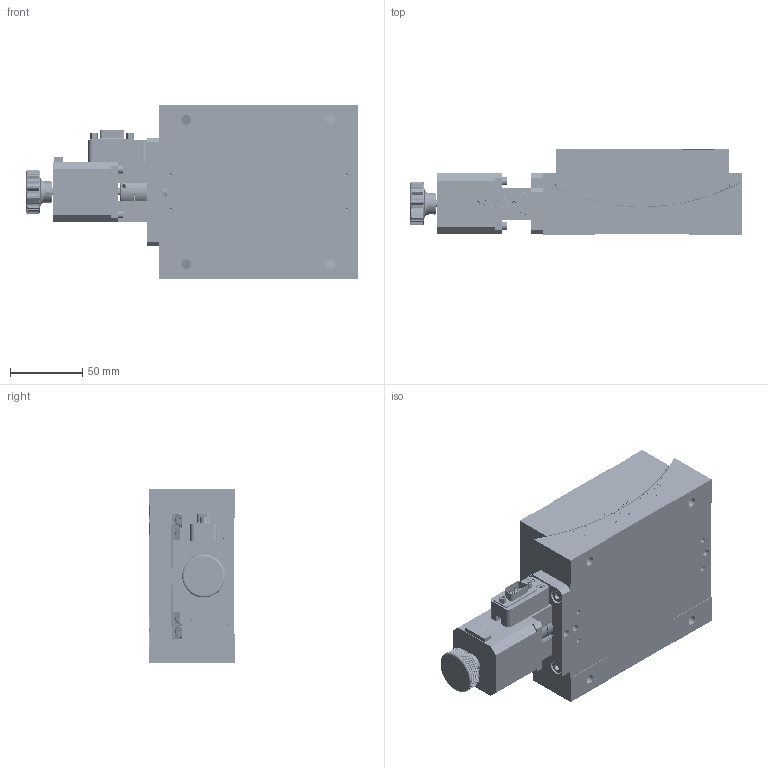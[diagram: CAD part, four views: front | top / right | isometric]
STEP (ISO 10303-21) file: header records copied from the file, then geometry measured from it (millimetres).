
FILE_DESCRIPTION (( 'STEP AP203' ), '1' );
FILE_NAME ('PT-GD124×°Åä.STEP', '2025-08-05T03:09:00', ( '' ), ( '' ), 'SwSTEP 2.0', 'SolidWorks 2023', '' );
FILE_SCHEMA (( 'CONFIG_CONTROL_DESIGN' ));
Length unit declared in the file: millimetre
Products named in the file (29): GB／T 70．1-2000[内六角圆柱头螺钉M3×16]; PT-GD124-01底座; PT-GD124-10背母; D3钢球; 9针座; PT-GD124-03电机座连接板X; PT-GD124-06涡轮; 联轴器26-20-5-5; GB／T 70．1-2000[内六角圆柱头螺钉M4×16]; PT-GD124-02台面; 电机9针座标准件; PT-GD124装配; PT-GD124-05涡杆; GB／T 70．1-2000[内六角圆柱头螺钉M4×12]; MVR3螺钉; 9针座螺钉; PT-GD124-08导轨右; GB／T 896-86[开口挡圈6]; SST43D2046; GB／T 276-94[深沟球轴承607-2Z]; GB／T 70．1-2000[内六角圆柱头螺钉M3×10]; PT-GD124-13轴承座; PDV-42电机手轮; PT-GD124-12轴承锁母; PT-GD124-09钢球固定架; PT-GD124-07导轨左; GB／T 70．1-2000[内六角圆柱头螺钉M5×10]; PT-GD124-11背母2; GB／T 77-2000[内六角平端紧定螺钉M4×5]
Assembly tree (116 placements, depth 2):
  PT-GD124装配
    PT-GD124-01底座
    PT-GD124-02台面
    PT-GD124-06涡轮
    PT-GD124-05涡杆
    PT-GD124-08导轨右  x2
    PT-GD124-07导轨左  x2
    PT-GD124-13轴承座  x2
    GB／T 276-94[深沟球轴承607-2Z]  x2
    PT-GD124-10背母
    PT-GD124-12轴承锁母
    PT-GD124-11背母2
    联轴器26-20-5-5
    SST43D2046
    PDV-42电机手轮
    9针座
    MVR3螺钉  x8
    GB／T 70．1-2000[内六角圆柱头螺钉M4×12]  x18
    GB／T 70．1-2000[内六角圆柱头螺钉M3×10]  x14
    GB／T 70．1-2000[内六角圆柱头螺钉M5×10]  x4
    9针座螺钉  x2
    GB／T 70．1-2000[内六角圆柱头螺钉M4×16]  x10
    GB／T 77-2000[内六角平端紧定螺钉M4×5]  x12
    GB／T 896-86[开口挡圈6]
    PT-GD124-09钢球固定架  x2
    D3钢球  x22
    PT-GD124-03电机座连接板X
    电机9针座标准件
    GB／T 70．1-2000[内六角圆柱头螺钉M3×16]  x2
Bounding box: 230 x 59 x 120 mm (x, y, z)
Volume: 899386.8 mm3; surface area: 242566.5 mm2
Topology: 116 solids, 116 shells, 4673 faces, 12371 edges, 7988 vertices
Faces by surface type: plane 1893, cylinder 1489, bspline 450, cone 325, torus 310, sphere 206
Entity records: 144291 total; most frequent: CARTESIAN_POINT 65274, ORIENTED_EDGE 16922, DIRECTION 13200, EDGE_CURVE 8461, VERTEX_POINT 5582, AXIS2_PLACEMENT_3D 4809, VECTOR 3582, LINE 3582
